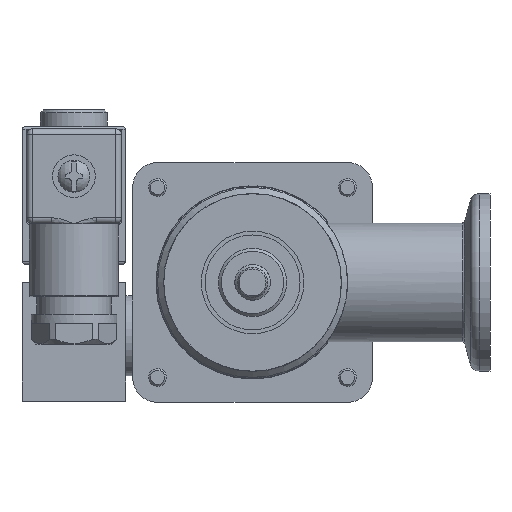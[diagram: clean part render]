
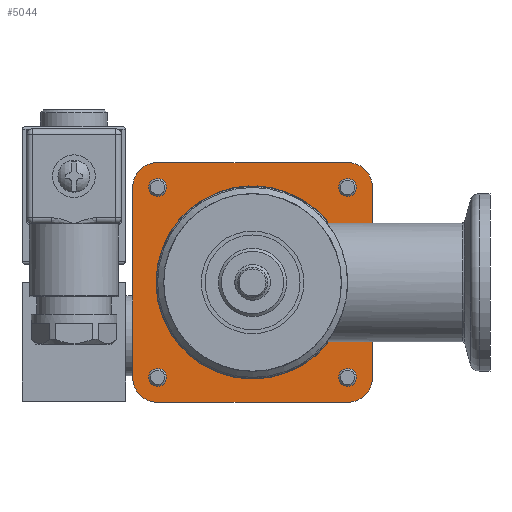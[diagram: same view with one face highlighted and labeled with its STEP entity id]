
A CAD part, front view. The second image highlights one B-rep face of the part: STEP entity #5044.
In plain terms, the highlighted planar face has unit normal (0, -1, 0) as drawn and (0, 1, 0) by its records, which use the part's own axes.
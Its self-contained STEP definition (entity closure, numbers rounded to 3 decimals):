
#1792=LINE('',#18511,#2765);
#1796=LINE('',#18520,#2769);
#1800=LINE('',#18532,#2773);
#1804=LINE('',#18541,#2777);
#1808=LINE('',#18553,#2781);
#1812=LINE('',#18562,#2785);
#1816=LINE('',#18574,#2789);
#1819=LINE('',#18590,#2792);
#1823=LINE('',#18600,#2796);
#1826=LINE('',#18608,#2799);
#1829=LINE('',#18616,#2802);
#1831=LINE('',#18621,#2804);
#2765=VECTOR('',#15145,1.);
#2769=VECTOR('',#15151,1.);
#2773=VECTOR('',#15163,1.);
#2777=VECTOR('',#15169,1.);
#2781=VECTOR('',#15181,1.);
#2785=VECTOR('',#15187,1.);
#2789=VECTOR('',#15199,1.);
#2792=VECTOR('',#15222,1.);
#2796=VECTOR('',#15232,1.);
#2799=VECTOR('',#15241,1.);
#2802=VECTOR('',#15250,1.);
#2804=VECTOR('',#15258,1.);
#4540=PLANE('',#13730);
#5044=ADVANCED_FACE('',(#5972,#5973,#5974,#5975,#5976,#5977),#4540,.T.);
#5972=FACE_BOUND('',#6529,.T.);
#5973=FACE_BOUND('',#6530,.T.);
#5974=FACE_BOUND('',#6531,.T.);
#5975=FACE_BOUND('',#6532,.T.);
#5976=FACE_BOUND('',#6533,.T.);
#5977=FACE_BOUND('',#6534,.T.);
#6529=EDGE_LOOP('',(#7658));
#6530=EDGE_LOOP('',(#7659));
#6531=EDGE_LOOP('',(#7660));
#6532=EDGE_LOOP('',(#7661));
#6533=EDGE_LOOP('',(#7662,#7663,#7664,#7665,#7666,#7667,#7668,#7669));
#6534=EDGE_LOOP('',(#7670,#7671,#7672,#7673,#7674,#7675,#7676,#7677,#7678,
#7679,#7680,#7681,#7682,#7683,#7684,#7685));
#7658=ORIENTED_EDGE('',*,*,#11648,.F.);
#7659=ORIENTED_EDGE('',*,*,#11649,.F.);
#7660=ORIENTED_EDGE('',*,*,#11650,.F.);
#7661=ORIENTED_EDGE('',*,*,#11651,.F.);
#7662=ORIENTED_EDGE('',*,*,#11631,.T.);
#7663=ORIENTED_EDGE('',*,*,#11634,.T.);
#7664=ORIENTED_EDGE('',*,*,#11636,.T.);
#7665=ORIENTED_EDGE('',*,*,#11638,.T.);
#7666=ORIENTED_EDGE('',*,*,#11640,.T.);
#7667=ORIENTED_EDGE('',*,*,#11642,.T.);
#7668=ORIENTED_EDGE('',*,*,#11644,.T.);
#7669=ORIENTED_EDGE('',*,*,#11645,.T.);
#7670=ORIENTED_EDGE('',*,*,#11587,.T.);
#7671=ORIENTED_EDGE('',*,*,#11590,.T.);
#7672=ORIENTED_EDGE('',*,*,#11629,.T.);
#7673=ORIENTED_EDGE('',*,*,#11594,.T.);
#7674=ORIENTED_EDGE('',*,*,#11597,.T.);
#7675=ORIENTED_EDGE('',*,*,#11600,.T.);
#7676=ORIENTED_EDGE('',*,*,#11627,.T.);
#7677=ORIENTED_EDGE('',*,*,#11604,.T.);
#7678=ORIENTED_EDGE('',*,*,#11607,.T.);
#7679=ORIENTED_EDGE('',*,*,#11610,.T.);
#7680=ORIENTED_EDGE('',*,*,#11625,.T.);
#7681=ORIENTED_EDGE('',*,*,#11614,.T.);
#7682=ORIENTED_EDGE('',*,*,#11617,.T.);
#7683=ORIENTED_EDGE('',*,*,#11620,.T.);
#7684=ORIENTED_EDGE('',*,*,#11623,.T.);
#7685=ORIENTED_EDGE('',*,*,#11647,.T.);
#10466=VERTEX_POINT('',#18499);
#10469=VERTEX_POINT('',#18504);
#10471=VERTEX_POINT('',#18510);
#10472=VERTEX_POINT('',#18514);
#10475=VERTEX_POINT('',#18519);
#10477=VERTEX_POINT('',#18525);
#10479=VERTEX_POINT('',#18531);
#10480=VERTEX_POINT('',#18535);
#10483=VERTEX_POINT('',#18540);
#10485=VERTEX_POINT('',#18546);
#10487=VERTEX_POINT('',#18552);
#10488=VERTEX_POINT('',#18556);
#10491=VERTEX_POINT('',#18561);
#10493=VERTEX_POINT('',#18567);
#10495=VERTEX_POINT('',#18573);
#10497=VERTEX_POINT('',#18579);
#10498=VERTEX_POINT('',#18589);
#10499=VERTEX_POINT('',#18591);
#10500=VERTEX_POINT('',#18595);
#10501=VERTEX_POINT('',#18599);
#10502=VERTEX_POINT('',#18603);
#10503=VERTEX_POINT('',#18607);
#10504=VERTEX_POINT('',#18611);
#10505=VERTEX_POINT('',#18615);
#10506=VERTEX_POINT('',#18624);
#10507=VERTEX_POINT('',#18626);
#10508=VERTEX_POINT('',#18628);
#10509=VERTEX_POINT('',#18630);
#11587=EDGE_CURVE('',#10466,#10469,#13088,.T.);
#11590=EDGE_CURVE('',#10469,#10471,#1792,.T.);
#11594=EDGE_CURVE('',#10472,#10475,#1796,.T.);
#11597=EDGE_CURVE('',#10475,#10477,#13090,.T.);
#11600=EDGE_CURVE('',#10477,#10479,#1800,.T.);
#11604=EDGE_CURVE('',#10480,#10483,#1804,.T.);
#11607=EDGE_CURVE('',#10483,#10485,#13092,.T.);
#11610=EDGE_CURVE('',#10485,#10487,#1808,.T.);
#11614=EDGE_CURVE('',#10488,#10491,#1812,.T.);
#11617=EDGE_CURVE('',#10491,#10493,#13094,.T.);
#11620=EDGE_CURVE('',#10493,#10495,#1816,.T.);
#11623=EDGE_CURVE('',#10495,#10497,#13096,.T.);
#11625=EDGE_CURVE('',#10487,#10488,#13098,.T.);
#11627=EDGE_CURVE('',#10479,#10480,#13100,.T.);
#11629=EDGE_CURVE('',#10471,#10472,#13102,.T.);
#11631=EDGE_CURVE('',#10499,#10498,#1819,.T.);
#11634=EDGE_CURVE('',#10498,#10500,#13103,.T.);
#11636=EDGE_CURVE('',#10500,#10501,#1823,.T.);
#11638=EDGE_CURVE('',#10501,#10502,#13104,.T.);
#11640=EDGE_CURVE('',#10502,#10503,#1826,.T.);
#11642=EDGE_CURVE('',#10503,#10504,#13105,.T.);
#11644=EDGE_CURVE('',#10504,#10505,#1829,.T.);
#11645=EDGE_CURVE('',#10505,#10499,#13106,.T.);
#11647=EDGE_CURVE('',#10497,#10466,#1831,.T.);
#11648=EDGE_CURVE('',#10506,#10506,#13107,.T.);
#11649=EDGE_CURVE('',#10507,#10507,#13108,.T.);
#11650=EDGE_CURVE('',#10508,#10508,#13109,.T.);
#11651=EDGE_CURVE('',#10509,#10509,#13110,.T.);
#13088=CIRCLE('',#13686,16.1);
#13090=CIRCLE('',#13691,16.1);
#13092=CIRCLE('',#13696,16.1);
#13094=CIRCLE('',#13701,16.1);
#13096=CIRCLE('',#13705,16.275);
#13098=CIRCLE('',#13707,16.275);
#13100=CIRCLE('',#13709,16.275);
#13102=CIRCLE('',#13711,16.275);
#13103=CIRCLE('',#13714,4.2);
#13104=CIRCLE('',#13717,4.2);
#13105=CIRCLE('',#13720,4.2);
#13106=CIRCLE('',#13723,4.2);
#13107=CIRCLE('',#13726,1.5);
#13108=CIRCLE('',#13727,1.5);
#13109=CIRCLE('',#13728,1.5);
#13110=CIRCLE('',#13729,1.5);
#13686=AXIS2_PLACEMENT_3D('',#18505,#15139,#15140);
#13691=AXIS2_PLACEMENT_3D('',#18526,#15157,#15158);
#13696=AXIS2_PLACEMENT_3D('',#18547,#15175,#15176);
#13701=AXIS2_PLACEMENT_3D('',#18568,#15193,#15194);
#13705=AXIS2_PLACEMENT_3D('',#18580,#15205,#15206);
#13707=AXIS2_PLACEMENT_3D('',#18582,#15209,#15210);
#13709=AXIS2_PLACEMENT_3D('',#18584,#15213,#15214);
#13711=AXIS2_PLACEMENT_3D('',#18586,#15217,#15218);
#13714=AXIS2_PLACEMENT_3D('',#18596,#15227,#15228);
#13717=AXIS2_PLACEMENT_3D('',#18604,#15236,#15237);
#13720=AXIS2_PLACEMENT_3D('',#18612,#15245,#15246);
#13723=AXIS2_PLACEMENT_3D('',#18618,#15253,#15254);
#13726=AXIS2_PLACEMENT_3D('',#18623,#15261,#15262);
#13727=AXIS2_PLACEMENT_3D('',#18625,#15263,#15264);
#13728=AXIS2_PLACEMENT_3D('',#18627,#15265,#15266);
#13729=AXIS2_PLACEMENT_3D('',#18629,#15267,#15268);
#13730=AXIS2_PLACEMENT_3D('',#18631,#15269,#15270);
#15139=DIRECTION('',(0.,-1.,0.));
#15140=DIRECTION('',(0.,0.,1.));
#15145=DIRECTION('',(0.,0.,1.));
#15151=DIRECTION('',(1.,0.,0.));
#15157=DIRECTION('',(0.,-1.,0.));
#15158=DIRECTION('',(0.,0.,1.));
#15163=DIRECTION('',(-1.,0.,0.));
#15169=DIRECTION('',(0.,0.,1.));
#15175=DIRECTION('',(0.,-1.,0.));
#15176=DIRECTION('',(0.,0.,1.));
#15181=DIRECTION('',(0.,0.,-1.));
#15187=DIRECTION('',(-1.,0.,0.));
#15193=DIRECTION('',(0.,-1.,0.));
#15194=DIRECTION('',(0.,0.,1.));
#15199=DIRECTION('',(1.,0.,0.));
#15205=DIRECTION('',(0.,-1.,0.));
#15206=DIRECTION('',(0.,0.,1.));
#15209=DIRECTION('',(0.,-1.,0.));
#15210=DIRECTION('',(0.,0.,1.));
#15213=DIRECTION('',(0.,-1.,0.));
#15214=DIRECTION('',(0.,0.,1.));
#15217=DIRECTION('',(0.,-1.,0.));
#15218=DIRECTION('',(0.,0.,1.));
#15222=DIRECTION('',(0.,0.,-1.));
#15227=DIRECTION('',(0.,1.,0.));
#15228=DIRECTION('',(1.,0.,0.));
#15232=DIRECTION('',(-1.,0.,0.));
#15236=DIRECTION('',(0.,1.,0.));
#15237=DIRECTION('',(0.,0.,-1.));
#15241=DIRECTION('',(0.,0.,1.));
#15245=DIRECTION('',(0.,1.,0.));
#15246=DIRECTION('',(-1.,0.,0.));
#15250=DIRECTION('',(1.,0.,0.));
#15253=DIRECTION('',(0.,1.,0.));
#15254=DIRECTION('',(0.,0.,1.));
#15258=DIRECTION('',(0.,0.,-1.));
#15261=DIRECTION('',(0.,1.,0.));
#15262=DIRECTION('',(-1.,0.,0.));
#15263=DIRECTION('',(0.,1.,0.));
#15264=DIRECTION('',(-1.,0.,0.));
#15265=DIRECTION('',(0.,1.,0.));
#15266=DIRECTION('',(-1.,0.,0.));
#15267=DIRECTION('',(0.,1.,0.));
#15268=DIRECTION('',(-1.,0.,0.));
#15269=DIRECTION('',(0.,1.,0.));
#15270=DIRECTION('',(0.,0.,1.));
#18499=CARTESIAN_POINT('',(0.75,6.,16.083));
#18504=CARTESIAN_POINT('',(-0.75,6.,16.083));
#18505=CARTESIAN_POINT('',(0.,6.,0.));
#18510=CARTESIAN_POINT('',(-0.75,6.,16.258));
#18511=CARTESIAN_POINT('',(-0.75,6.,16.083));
#18514=CARTESIAN_POINT('',(-16.258,6.,0.75));
#18519=CARTESIAN_POINT('',(-16.083,6.,0.75));
#18520=CARTESIAN_POINT('',(-16.258,6.,0.75));
#18525=CARTESIAN_POINT('',(-16.083,6.,-0.75));
#18526=CARTESIAN_POINT('',(0.,6.,0.));
#18531=CARTESIAN_POINT('',(-16.258,6.,-0.75));
#18532=CARTESIAN_POINT('',(-16.083,6.,-0.75));
#18535=CARTESIAN_POINT('',(-0.75,6.,-16.258));
#18540=CARTESIAN_POINT('',(-0.75,6.,-16.083));
#18541=CARTESIAN_POINT('',(-0.75,6.,-16.258));
#18546=CARTESIAN_POINT('',(0.75,6.,-16.083));
#18547=CARTESIAN_POINT('',(0.,6.,0.));
#18552=CARTESIAN_POINT('',(0.75,6.,-16.258));
#18553=CARTESIAN_POINT('',(0.75,6.,-16.083));
#18556=CARTESIAN_POINT('',(16.258,6.,-0.75));
#18561=CARTESIAN_POINT('',(16.083,6.,-0.75));
#18562=CARTESIAN_POINT('',(16.258,6.,-0.75));
#18567=CARTESIAN_POINT('',(16.083,6.,0.75));
#18568=CARTESIAN_POINT('',(0.,6.,0.));
#18573=CARTESIAN_POINT('',(16.258,6.,0.75));
#18574=CARTESIAN_POINT('',(16.083,6.,0.75));
#18579=CARTESIAN_POINT('',(0.75,6.,16.258));
#18580=CARTESIAN_POINT('',(0.,6.,0.));
#18582=CARTESIAN_POINT('',(0.,6.,0.));
#18584=CARTESIAN_POINT('',(0.,6.,0.));
#18586=CARTESIAN_POINT('',(0.,6.,0.));
#18589=CARTESIAN_POINT('',(20.2,6.,-16.));
#18590=CARTESIAN_POINT('',(20.2,6.,16.));
#18591=CARTESIAN_POINT('',(20.2,6.,16.));
#18595=CARTESIAN_POINT('',(16.,6.,-20.2));
#18596=CARTESIAN_POINT('',(16.,6.,-16.));
#18599=CARTESIAN_POINT('',(-16.,6.,-20.2));
#18600=CARTESIAN_POINT('',(16.,6.,-20.2));
#18603=CARTESIAN_POINT('',(-20.2,6.,-16.));
#18604=CARTESIAN_POINT('',(-16.,6.,-16.));
#18607=CARTESIAN_POINT('',(-20.2,6.,16.));
#18608=CARTESIAN_POINT('',(-20.2,6.,-16.));
#18611=CARTESIAN_POINT('',(-16.,6.,20.2));
#18612=CARTESIAN_POINT('',(-16.,6.,16.));
#18615=CARTESIAN_POINT('',(16.,6.,20.2));
#18616=CARTESIAN_POINT('',(-16.,6.,20.2));
#18618=CARTESIAN_POINT('',(16.,6.,16.));
#18621=CARTESIAN_POINT('',(0.75,6.,16.258));
#18623=CARTESIAN_POINT('',(-16.,6.,16.));
#18624=CARTESIAN_POINT('',(-17.5,6.,16.));
#18625=CARTESIAN_POINT('',(16.,6.,-16.));
#18626=CARTESIAN_POINT('',(14.5,6.,-16.));
#18627=CARTESIAN_POINT('',(-16.,6.,-16.));
#18628=CARTESIAN_POINT('',(-17.5,6.,-16.));
#18629=CARTESIAN_POINT('',(16.,6.,16.));
#18630=CARTESIAN_POINT('',(14.5,6.,16.));
#18631=CARTESIAN_POINT('',(16.,6.,-16.));
